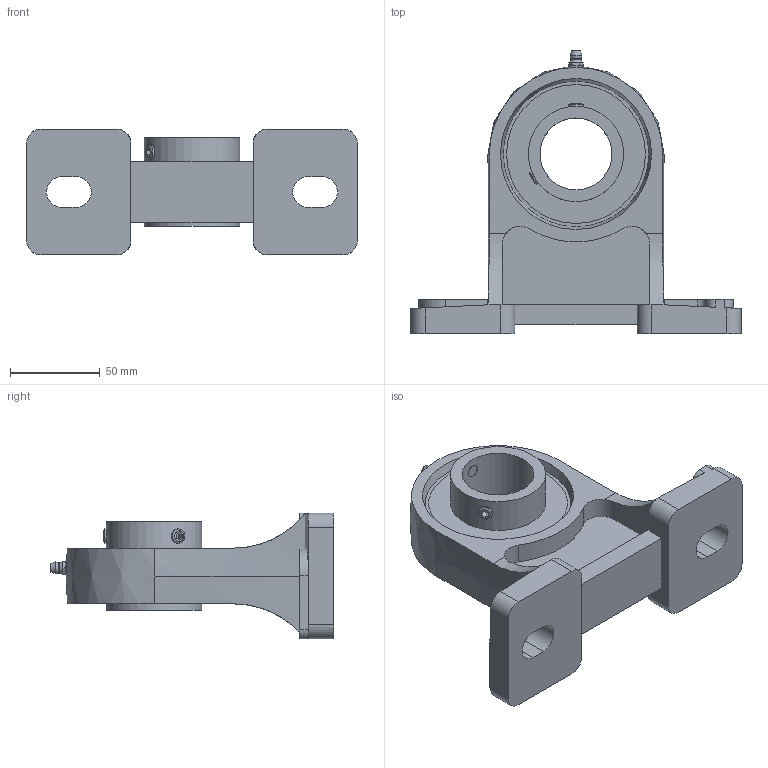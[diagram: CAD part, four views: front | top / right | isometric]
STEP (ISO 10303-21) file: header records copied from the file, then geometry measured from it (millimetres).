
FILE_DESCRIPTION((''),'2;1');
FILE_NAME('\\Ts-tgl068\j-cad-d-base\00.3DCADデータ作成フォルダ\01.ピロー形\UCPH200\UCPH208.stp','2014-04-18T08:30:35',('btec_1106_2'),(''),'Autodesk Inventor 2012','Autodesk Inventor 2012','');
FILE_SCHEMA(('AUTOMOTIVE_DESIGN { 1 0 10303 214 1 1 1 1 }'));
Length unit declared in the file: millimetre
Products named in the file (4): UCPH200; PH [番手=208 ul]; シリーズUC [番手=208 ul]; GU1
Assembly tree (3 placements, depth 2):
  UCPH200
    PH [番手=208 ul]
    シリーズUC [番手=208 ul]
    GU1
Bounding box: 184 x 157.79 x 70 mm (x, y, z)
Volume: 394445.7 mm3; surface area: 90243.2 mm2
Topology: 3 solids, 3 shells, 145 faces, 367 edges, 237 vertices
Faces by surface type: plane 76, cylinder 41, cone 17, bspline 5, sphere 4, torus 2
Full cylindrical faces by diameter (mm): 5.359 x1, 6.35 x1, 8 x2, 40 x1, 53 x2
Entity records: 4612 total; most frequent: CARTESIAN_POINT 1148, DIRECTION 682, ORIENTED_EDGE 674, EDGE_CURVE 337, AXIS2_PLACEMENT_3D 250, VERTEX_POINT 227, EDGE_LOOP 184, VECTOR 182
